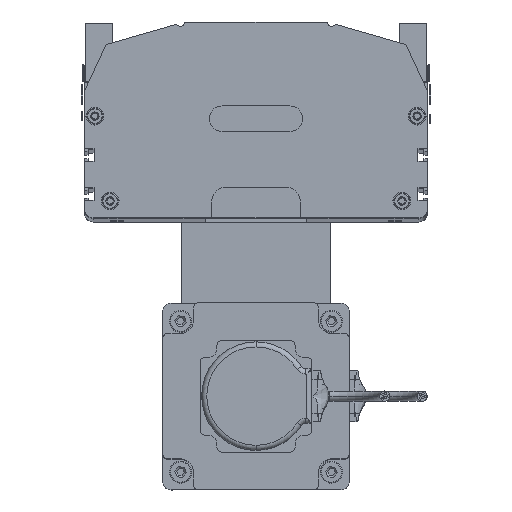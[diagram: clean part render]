
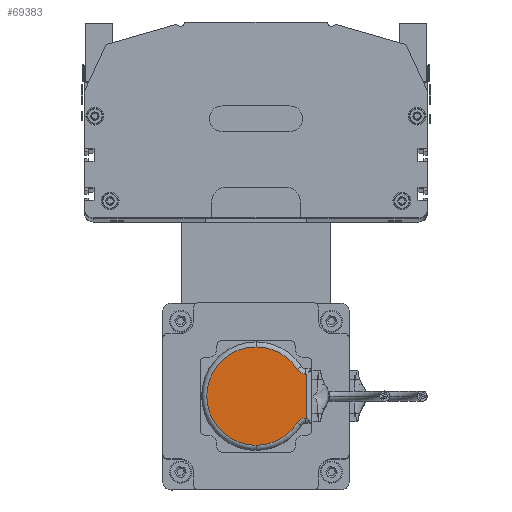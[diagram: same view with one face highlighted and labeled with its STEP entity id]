
A CAD part, top view. The second image highlights one B-rep face of the part: STEP entity #69383.
In plain terms, the highlighted planar face has unit normal (0, 0, 1).
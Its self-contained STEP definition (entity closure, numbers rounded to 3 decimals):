
#48345 = CARTESIAN_POINT ( 'NONE',  ( 4., 33., 25. ) ) ;
#48383 = DIRECTION ( 'NONE',  ( 1., 0., 0. ) ) ;
#48384 = DIRECTION ( 'NONE',  ( 0., 0., 1. ) ) ;
#48385 = AXIS2_PLACEMENT_3D ( 'NONE', #48434, #48384, #48383 ) ;
#48404 = CIRCLE ( 'NONE', #48385, 29. ) ;
#48434 = CARTESIAN_POINT ( 'NONE',  ( 33., 33., 25. ) ) ;
#48520 = DIRECTION ( 'NONE',  ( 1., 0., 0. ) ) ;
#48521 = DIRECTION ( 'NONE',  ( 0., 0., 1. ) ) ;
#48522 = CARTESIAN_POINT ( 'NONE',  ( 33., 33., 25. ) ) ;
#48527 = CIRCLE ( 'NONE', #48550, 29. ) ;
#48550 = AXIS2_PLACEMENT_3D ( 'NONE', #48522, #48521, #48520 ) ;
#60444 = LINE ( 'NONE', #60449, #60519 ) ;
#60449 = CARTESIAN_POINT ( 'NONE',  ( 20., 33., 25. ) ) ;
#60473 = DIRECTION ( 'NONE',  ( 1., 0., 0. ) ) ;
#60486 = AXIS2_PLACEMENT_3D ( 'NONE', #60491, #60514, #60473 ) ;
#60490 = CIRCLE ( 'NONE', #60486, 6. ) ;
#60491 = CARTESIAN_POINT ( 'NONE',  ( 14., 62.394, 25. ) ) ;
#60514 = DIRECTION ( 'NONE',  ( 0., 0., 1. ) ) ;
#60518 = DIRECTION ( 'NONE',  ( 0., -1., 0. ) ) ;
#60519 = VECTOR ( 'NONE', #60518, 1000. ) ;
#60586 = CARTESIAN_POINT ( 'NONE',  ( 62., 33., 25. ) ) ;
#61022 = LINE ( 'NONE', #61093, #61092 ) ;
#61041 = DIRECTION ( 'NONE',  ( -1., 0., 0. ) ) ;
#61078 = VECTOR ( 'NONE', #61041, 1000. ) ;
#61079 = CARTESIAN_POINT ( 'NONE',  ( 17.5, 63., 25. ) ) ;
#61080 = LINE ( 'NONE', #61079, #61078 ) ;
#61091 = DIRECTION ( 'NONE',  ( 0., 1., 0. ) ) ;
#61092 = VECTOR ( 'NONE', #61091, 1000. ) ;
#61093 = CARTESIAN_POINT ( 'NONE',  ( 46., 33., 25. ) ) ;
#61469 = PLANE ( 'NONE',  #61474 ) ;
#61474 = AXIS2_PLACEMENT_3D ( 'NONE', #61495, #61494, #61486 ) ;
#61482 = CIRCLE ( 'NONE', #61523, 29. ) ;
#61486 = DIRECTION ( 'NONE',  ( 1., 0., 0. ) ) ;
#61489 = FACE_OUTER_BOUND ( 'NONE', #69254, .T. ) ;
#61490 = CARTESIAN_POINT ( 'NONE',  ( 20., 62.394, 25. ) ) ;
#61491 = CARTESIAN_POINT ( 'NONE',  ( 48.743, 57.355, 25. ) ) ;
#61492 = CARTESIAN_POINT ( 'NONE',  ( 20., 63., 25. ) ) ;
#61494 = DIRECTION ( 'NONE',  ( 0., 0., 1. ) ) ;
#61495 = CARTESIAN_POINT ( 'NONE',  ( 33., 33., 25. ) ) ;
#61502 = DIRECTION ( 'NONE',  ( 1., 0., 0. ) ) ;
#61503 = DIRECTION ( 'NONE',  ( 0., 0., 1. ) ) ;
#61504 = AXIS2_PLACEMENT_3D ( 'NONE', #61514, #61503, #61502 ) ;
#61506 = CARTESIAN_POINT ( 'NONE',  ( 46., 62.394, 25. ) ) ;
#61512 = DIRECTION ( 'NONE',  ( 1., 0., 0. ) ) ;
#61513 = DIRECTION ( 'NONE',  ( 0., 0., 1. ) ) ;
#61514 = CARTESIAN_POINT ( 'NONE',  ( 52., 62.394, 25. ) ) ;
#61515 = CARTESIAN_POINT ( 'NONE',  ( 46., 63., 25. ) ) ;
#61516 = CIRCLE ( 'NONE', #61504, 6. ) ;
#61523 = AXIS2_PLACEMENT_3D ( 'NONE', #61559, #61513, #61512 ) ;
#61559 = CARTESIAN_POINT ( 'NONE',  ( 33., 33., 25. ) ) ;
#62861 = CARTESIAN_POINT ( 'NONE',  ( 17.257, 57.355, 25. ) ) ;
#68675 = EDGE_CURVE ( 'NONE', #69000, #68726, #48404, .T. ) ;
#68726 = VERTEX_POINT ( 'NONE', #48345 ) ;
#68763 = EDGE_CURVE ( 'NONE', #68726, #69104, #48527, .T. ) ;
#69000 = VERTEX_POINT ( 'NONE', #62861 ) ;
#69025 = EDGE_CURVE ( 'NONE', #69000, #69386, #60490, .T. ) ;
#69037 = ORIENTED_EDGE ( 'NONE', *, *, #69025, .F. ) ;
#69051 = EDGE_CURVE ( 'NONE', #69391, #69386, #60444, .T. ) ;
#69104 = VERTEX_POINT ( 'NONE', #60586 ) ;
#69192 = EDGE_CURVE ( 'NONE', #69409, #69405, #61022, .T. ) ;
#69197 = ORIENTED_EDGE ( 'NONE', *, *, #69051, .T. ) ;
#69207 = EDGE_CURVE ( 'NONE', #69405, #69391, #61080, .T. ) ;
#69215 = ORIENTED_EDGE ( 'NONE', *, *, #69207, .T. ) ;
#69254 = EDGE_LOOP ( 'NONE', ( #69037, #69387, #69403, #69379, #69315, #69314, #69215, #69197 ) ) ;
#69314 = ORIENTED_EDGE ( 'NONE', *, *, #69192, .T. ) ;
#69315 = ORIENTED_EDGE ( 'NONE', *, *, #69408, .F. ) ;
#69379 = ORIENTED_EDGE ( 'NONE', *, *, #69401, .T. ) ;
#69383 = ADVANCED_FACE ( 'NONE', ( #61489 ), #61469, .T. ) ;
#69386 = VERTEX_POINT ( 'NONE', #61490 ) ;
#69387 = ORIENTED_EDGE ( 'NONE', *, *, #68675, .T. ) ;
#69391 = VERTEX_POINT ( 'NONE', #61492 ) ;
#69395 = VERTEX_POINT ( 'NONE', #61491 ) ;
#69401 = EDGE_CURVE ( 'NONE', #69104, #69395, #61482, .T. ) ;
#69403 = ORIENTED_EDGE ( 'NONE', *, *, #68763, .T. ) ;
#69405 = VERTEX_POINT ( 'NONE', #61515 ) ;
#69408 = EDGE_CURVE ( 'NONE', #69409, #69395, #61516, .T. ) ;
#69409 = VERTEX_POINT ( 'NONE', #61506 ) ;
